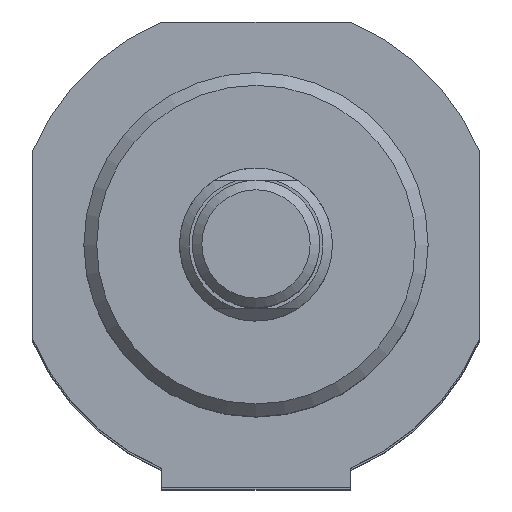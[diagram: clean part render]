
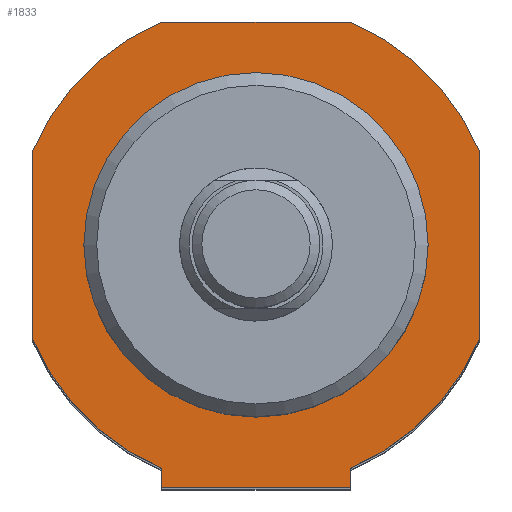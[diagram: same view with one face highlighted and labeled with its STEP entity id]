
A CAD part, top view. The second image highlights one B-rep face of the part: STEP entity #1833.
In plain terms, the highlighted planar face has unit normal (0, 0, 1).
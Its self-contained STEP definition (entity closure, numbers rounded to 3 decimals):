
#898=CARTESIAN_POINT('',(7.399,-19.0,149.0));
#899=VERTEX_POINT('',#898);
#900=CARTESIAN_POINT('',(-7.399,-19.0,149.0));
#901=VERTEX_POINT('',#900);
#902=CARTESIAN_POINT('',(7.399,-19.0,149.0));
#903=DIRECTION('',(-1.0,0.0,0.0));
#904=VECTOR('',#903,14.799);
#905=LINE('',#902,#904);
#906=EDGE_CURVE('',#899,#901,#905,.T.);
#1054=CARTESIAN_POINT('',(-7.399,-17.5,149.0));
#1055=VERTEX_POINT('',#1054);
#1069=CARTESIAN_POINT('',(-7.399,-17.5,149.0));
#1070=DIRECTION('',(0.0,-1.0,0.0));
#1071=VECTOR('',#1070,1.5);
#1072=LINE('',#1069,#1071);
#1073=EDGE_CURVE('',#1055,#901,#1072,.T.);
#1085=CARTESIAN_POINT('',(7.399,-17.5,149.0));
#1086=VERTEX_POINT('',#1085);
#1093=CARTESIAN_POINT('',(7.399,-17.5,149.0));
#1094=DIRECTION('',(0.0,-1.0,0.0));
#1095=VECTOR('',#1094,1.5);
#1096=LINE('',#1093,#1095);
#1097=EDGE_CURVE('',#1086,#899,#1096,.T.);
#1561=CARTESIAN_POINT('',(13.5,0.,149.0));
#1562=VERTEX_POINT('',#1561);
#1563=CARTESIAN_POINT('',(0.,0.,149.0));
#1564=DIRECTION('',(0.0,0.0,-1.0));
#1565=DIRECTION('',(-1.0,0.0,0.0));
#1566=AXIS2_PLACEMENT_3D('',#1563,#1564,#1565);
#1567=CIRCLE('',#1566,13.5);
#1568=EDGE_CURVE('',#1562,#1562,#1567,.T.);
#1653=CARTESIAN_POINT('',(-7.399,17.5,149.0));
#1654=VERTEX_POINT('',#1653);
#1655=CARTESIAN_POINT('',(7.399,17.5,149.0));
#1656=VERTEX_POINT('',#1655);
#1657=CARTESIAN_POINT('',(-7.399,17.5,149.0));
#1658=DIRECTION('',(1.0,0.0,0.0));
#1659=VECTOR('',#1658,14.799);
#1660=LINE('',#1657,#1659);
#1661=EDGE_CURVE('',#1654,#1656,#1660,.T.);
#1684=CARTESIAN_POINT('',(17.5,7.399,149.0));
#1685=VERTEX_POINT('',#1684);
#1686=CARTESIAN_POINT('',(0.,0.,149.0));
#1687=DIRECTION('',(0.,0.,-1.0));
#1688=DIRECTION('',(0.921,0.389,0.));
#1689=AXIS2_PLACEMENT_3D('',#1686,#1687,#1688);
#1690=CIRCLE('',#1689,19.0);
#1691=EDGE_CURVE('',#1656,#1685,#1690,.T.);
#1709=CARTESIAN_POINT('',(17.5,-7.399,149.0));
#1710=VERTEX_POINT('',#1709);
#1711=CARTESIAN_POINT('',(17.5,7.399,149.0));
#1712=DIRECTION('',(0.0,-1.0,0.0));
#1713=VECTOR('',#1712,14.799);
#1714=LINE('',#1711,#1713);
#1715=EDGE_CURVE('',#1685,#1710,#1714,.T.);
#1733=CARTESIAN_POINT('',(0.,0.,149.0));
#1734=DIRECTION('',(0.,0.,-1.));
#1735=DIRECTION('',(0.389,-0.921,0.));
#1736=AXIS2_PLACEMENT_3D('',#1733,#1734,#1735);
#1737=CIRCLE('',#1736,19.0);
#1738=EDGE_CURVE('',#1710,#1086,#1737,.T.);
#1751=CARTESIAN_POINT('',(-17.5,-7.399,149.0));
#1752=VERTEX_POINT('',#1751);
#1753=CARTESIAN_POINT('',(0.,0.,149.0));
#1754=DIRECTION('',(0.,0.,-1.0));
#1755=DIRECTION('',(-0.921,-0.389,0.));
#1756=AXIS2_PLACEMENT_3D('',#1753,#1754,#1755);
#1757=CIRCLE('',#1756,19.0);
#1758=EDGE_CURVE('',#1055,#1752,#1757,.T.);
#1776=CARTESIAN_POINT('',(-17.5,7.399,149.0));
#1777=VERTEX_POINT('',#1776);
#1778=CARTESIAN_POINT('',(-17.5,-7.399,149.0));
#1779=DIRECTION('',(0.0,1.0,0.0));
#1780=VECTOR('',#1779,14.799);
#1781=LINE('',#1778,#1780);
#1782=EDGE_CURVE('',#1752,#1777,#1781,.T.);
#1800=CARTESIAN_POINT('',(0.,0.,149.0));
#1801=DIRECTION('',(0.,0.,-1.));
#1802=DIRECTION('',(-0.389,0.921,0.));
#1803=AXIS2_PLACEMENT_3D('',#1800,#1801,#1802);
#1804=CIRCLE('',#1803,19.0);
#1805=EDGE_CURVE('',#1777,#1654,#1804,.T.);
#1813=CARTESIAN_POINT('',(0.,0.,149.0));
#1814=DIRECTION('',(0.0,0.0,1.0));
#1815=DIRECTION('',(1.0,0.0,0.0));
#1816=AXIS2_PLACEMENT_3D('',#1813,#1814,#1815);
#1817=PLANE('',#1816);
#1818=ORIENTED_EDGE('',*,*,#1661,.F.);
#1819=ORIENTED_EDGE('',*,*,#1805,.F.);
#1820=ORIENTED_EDGE('',*,*,#1782,.F.);
#1821=ORIENTED_EDGE('',*,*,#1758,.F.);
#1822=ORIENTED_EDGE('',*,*,#1073,.T.);
#1823=ORIENTED_EDGE('',*,*,#906,.F.);
#1824=ORIENTED_EDGE('',*,*,#1097,.F.);
#1825=ORIENTED_EDGE('',*,*,#1738,.F.);
#1826=ORIENTED_EDGE('',*,*,#1715,.F.);
#1827=ORIENTED_EDGE('',*,*,#1691,.F.);
#1828=EDGE_LOOP('',(#1818,#1819,#1820,#1821,#1822,#1823,#1824,#1825,#1826,#1827));
#1829=FACE_OUTER_BOUND('',#1828,.T.);
#1830=ORIENTED_EDGE('',*,*,#1568,.T.);
#1831=EDGE_LOOP('',(#1830));
#1832=FACE_BOUND('',#1831,.T.);
#1833=ADVANCED_FACE('',(#1829,#1832),#1817,.T.);
